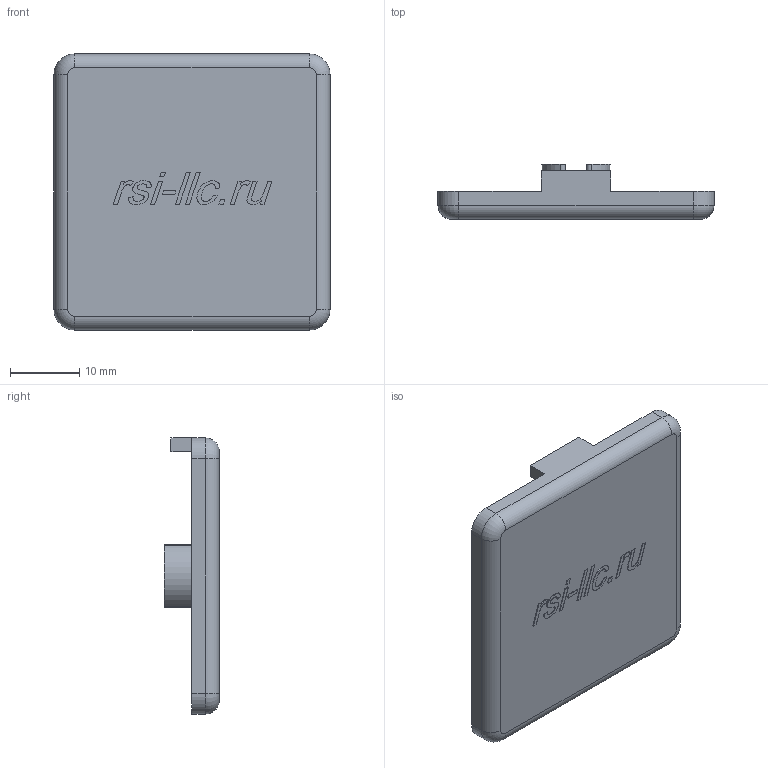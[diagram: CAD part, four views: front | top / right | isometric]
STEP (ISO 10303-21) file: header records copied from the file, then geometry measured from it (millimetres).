
FILE_DESCRIPTION (( 'STEP AP214' ), '1' );
FILE_NAME ('4035.STEP', '2020-10-21T07:06:42', ( '' ), ( '' ), 'SwSTEP 2.0', 'SolidWorks 2018', '' );
FILE_SCHEMA (( 'AUTOMOTIVE_DESIGN' ));
Length unit declared in the file: millimetre
Products named in the file (1): 4035
Bounding box: 40 x 8.1 x 40 mm (x, y, z)
Volume: 3862.5 mm3; surface area: 4265.3 mm2
Topology: 1 solids, 1 shells, 154 faces, 391 edges, 252 vertices
Faces by surface type: plane 78, bspline 32, cylinder 26, torus 18
Entity records: 7415 total; most frequent: CARTESIAN_POINT 2782, ORIENTED_EDGE 782, DIRECTION 653, EDGE_CURVE 391, VERTEX_POINT 252, LINE 247, VECTOR 247, AXIS2_PLACEMENT_3D 203
